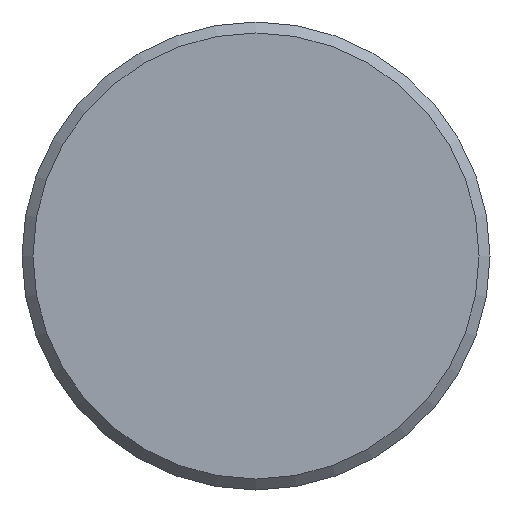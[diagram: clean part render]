
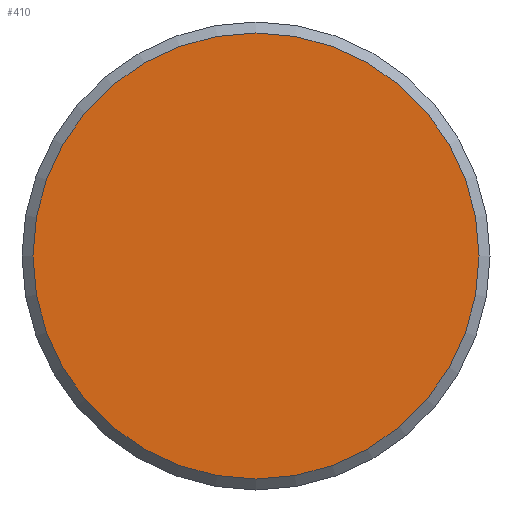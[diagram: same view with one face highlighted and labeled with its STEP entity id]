
A CAD part, front view. The second image highlights one B-rep face of the part: STEP entity #410.
In plain terms, the highlighted planar face has unit normal (0, -1, 0).
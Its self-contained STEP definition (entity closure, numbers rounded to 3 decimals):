
#44=PLANE('',#464);
#79=FACE_OUTER_BOUND('',#104,.T.);
#104=EDGE_LOOP('',(#380));
#168=CIRCLE('',#461,15.25);
#205=VERTEX_POINT('',#782);
#261=EDGE_CURVE('',#205,#205,#168,.T.);
#380=ORIENTED_EDGE('',*,*,#261,.F.);
#410=ADVANCED_FACE('',(#79),#44,.T.);
#461=AXIS2_PLACEMENT_3D('',#783,#563,#564);
#464=AXIS2_PLACEMENT_3D('',#789,#571,#572);
#563=DIRECTION('center_axis',(0.,1.,0.));
#564=DIRECTION('ref_axis',(1.,0.,0.));
#571=DIRECTION('center_axis',(0.,-1.,0.));
#572=DIRECTION('ref_axis',(1.,0.,0.));
#782=CARTESIAN_POINT('',(-15.25,-5.5,0.));
#783=CARTESIAN_POINT('Origin',(0.,-5.5,0.));
#789=CARTESIAN_POINT('Origin',(0.,-5.5,0.));
